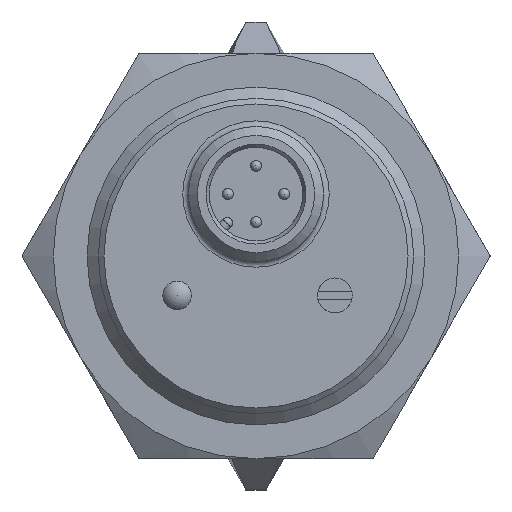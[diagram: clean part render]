
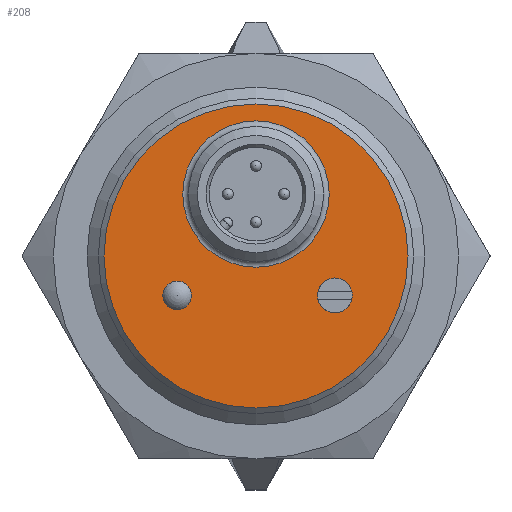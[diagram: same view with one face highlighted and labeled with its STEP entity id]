
A CAD part, left-side view. The second image highlights one B-rep face of the part: STEP entity #208.
In plain terms, the highlighted planar face has unit normal (-1, 0, 0).
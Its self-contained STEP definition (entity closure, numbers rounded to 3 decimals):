
#208 = ADVANCED_FACE( '', ( #310, #311, #312, #313 ), #314, .F. );
#310 = FACE_OUTER_BOUND( '', #476, .T. );
#311 = FACE_BOUND( '', #477, .T. );
#312 = FACE_BOUND( '', #478, .T. );
#313 = FACE_BOUND( '', #479, .T. );
#314 = PLANE( '', #480 );
#476 = EDGE_LOOP( '', ( #794 ) );
#477 = EDGE_LOOP( '', ( #795 ) );
#478 = EDGE_LOOP( '', ( #796 ) );
#479 = EDGE_LOOP( '', ( #797 ) );
#480 = AXIS2_PLACEMENT_3D( '', #798, #799, #800 );
#794 = ORIENTED_EDGE( '', *, *, #1074, .T. );
#795 = ORIENTED_EDGE( '', *, *, #1075, .F. );
#796 = ORIENTED_EDGE( '', *, *, #1076, .T. );
#797 = ORIENTED_EDGE( '', *, *, #1077, .T. );
#798 = CARTESIAN_POINT( '', ( -70.6, 0., -12.25 ) );
#799 = DIRECTION( '', ( 1., 0., 0. ) );
#800 = DIRECTION( '', ( 0., 0., -1. ) );
#1074 = EDGE_CURVE( '', #1229, #1229, #1230, .F. );
#1075 = EDGE_CURVE( '', #1231, #1231, #1232, .F. );
#1076 = EDGE_CURVE( '', #1233, #1233, #1234, .T. );
#1077 = EDGE_CURVE( '', #1235, #1235, #1236, .T. );
#1229 = VERTEX_POINT( '', #1606 );
#1230 = CIRCLE( '', #1607, 13.5 );
#1231 = VERTEX_POINT( '', #1608 );
#1232 = CIRCLE( '', #1609, 1.269 );
#1233 = VERTEX_POINT( '', #1610 );
#1234 = CIRCLE( '', #1611, 6.5 );
#1235 = VERTEX_POINT( '', #1612 );
#1236 = CIRCLE( '', #1613, 1.55 );
#1606 = CARTESIAN_POINT( '', ( -70.6, 0., -13.5 ) );
#1607 = AXIS2_PLACEMENT_3D( '', #1820, #1821, #1822 );
#1608 = CARTESIAN_POINT( '', ( -70.6, 7., -4.769 ) );
#1609 = AXIS2_PLACEMENT_3D( '', #1823, #1824, #1825 );
#1610 = CARTESIAN_POINT( '', ( -70.6, 0., -1. ) );
#1611 = AXIS2_PLACEMENT_3D( '', #1826, #1827, #1828 );
#1612 = CARTESIAN_POINT( '', ( -70.6, -5.45, -3.5 ) );
#1613 = AXIS2_PLACEMENT_3D( '', #1829, #1830, #1831 );
#1820 = CARTESIAN_POINT( '', ( -70.6, 0., 0. ) );
#1821 = DIRECTION( '', ( 1., 0., 0. ) );
#1822 = DIRECTION( '', ( 0., 0., -1. ) );
#1823 = CARTESIAN_POINT( '', ( -70.6, 7., -3.5 ) );
#1824 = DIRECTION( '', ( 1., 0., 0. ) );
#1825 = DIRECTION( '', ( 0., 0., -1. ) );
#1826 = CARTESIAN_POINT( '', ( -70.6, 0., 5.5 ) );
#1827 = DIRECTION( '', ( 1., 0., 0. ) );
#1828 = DIRECTION( '', ( 0., 0., -1. ) );
#1829 = CARTESIAN_POINT( '', ( -70.6, -7., -3.5 ) );
#1830 = DIRECTION( '', ( 1., 0., 0. ) );
#1831 = DIRECTION( '', ( 0., 1., 0. ) );
